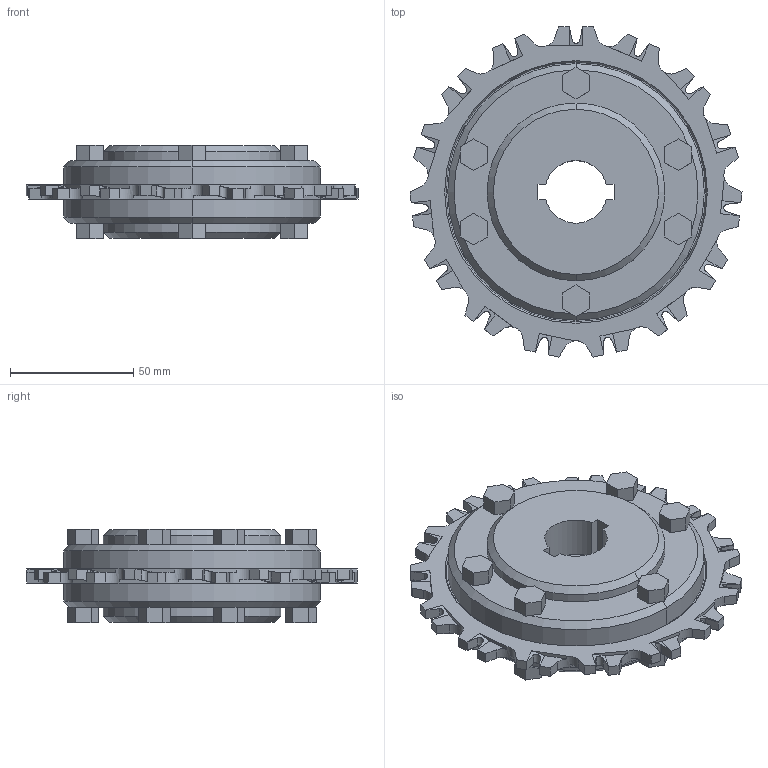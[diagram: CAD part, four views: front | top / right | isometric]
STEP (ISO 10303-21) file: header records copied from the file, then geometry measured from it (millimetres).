
FILE_DESCRIPTION((''),'2;1');
FILE_NAME('S900_SPL_PLASTIC_51_ROUND_ASM','2008-12-12T',('jmumphre'),(''),'PRO/ENGINEER BY PARAMETRIC TECHNOLOGY CORPORATION, 2008150','PRO/ENGINEER BY PARAMETRIC TECHNOLOGY CORPORATION, 2008150','');
FILE_SCHEMA(('CONFIG_CONTROL_DESIGN'));
Length unit declared in the file: inch
Products named in the file (5): S900_TP_PLASTIC_51X2_SQ_AF1; JOINING_PLATE_5_ROUND_AF0; JOINING_PLATE_5_ROUND_AF1; BOLTS_N_NUTS_3-480X1-000_AF0; S900_SPL_PLASTIC_51_ROUND_ASM
Assembly tree (4 placements, depth 2):
  S900_SPL_PLASTIC_51_ROUND_ASM
    S900_TP_PLASTIC_51X2_SQ_AF1
    JOINING_PLATE_5_ROUND_AF0
    JOINING_PLATE_5_ROUND_AF1
    BOLTS_N_NUTS_3-480X1-000_AF0
Bounding box: 134.8 x 134.06 x 38.1 mm (x, y, z)
Volume: 264640.2 mm3; surface area: 78396.7 mm2
Topology: 9 solids, 9 shells, 408 faces, 1080 edges, 706 vertices
Faces by surface type: plane 302, cylinder 94, cone 12
Entity records: 13267 total; most frequent: CARTESIAN_POINT 2805, ORIENTED_EDGE 2160, DIRECTION 2088, EDGE_CURVE 1080, VECTOR 846, LINE 846, VERTEX_POINT 706, AXIS2_PLACEMENT_3D 621
